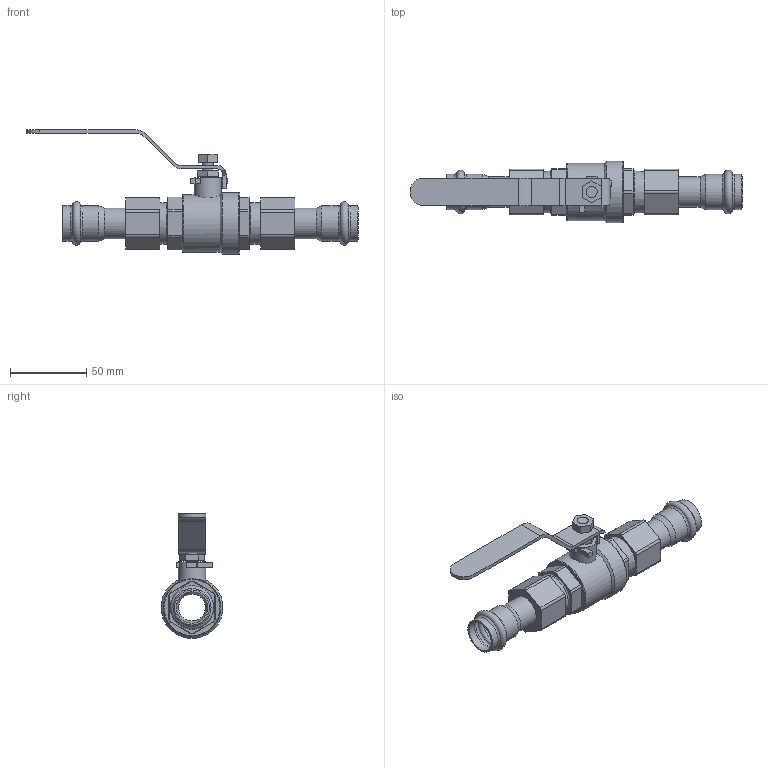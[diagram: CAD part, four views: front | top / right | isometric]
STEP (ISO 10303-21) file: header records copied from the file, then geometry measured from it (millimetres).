
FILE_DESCRIPTION(/* description */ (''),/* implementation_level */ '2;1');
FILE_NAME(/* name */ '51352010001.stp',/* time_stamp */ '2022-06-28T15:28:49+08:00',/* author */ (''),/* organization */ (''),/* preprocessor_version */ 'ST-DEVELOPER v11',/* originating_system */ 'SIEMENS PLM Software NX 7.5',/* authorisation */ '');
FILE_SCHEMA (('CONFIG_CONTROL_DESIGN'));
Length unit declared in the file: millimetre
Products named in the file (1): AdmiB4625zq7
Bounding box: 217.45 x 40.5 x 81.75 mm (x, y, z)
Volume: 86163 mm3; surface area: 49397 mm2
Topology: 5 solids, 5 shells, 197 faces, 459 edges, 294 vertices
Faces by surface type: plane 111, cylinder 51, torus 28, cone 7
Full cylindrical faces by diameter (mm): 7.2 x4, 17.6 x2, 17.8 x1, 19.45 x2, 19.8 x1, 20 x2, 20.5 x2, 20.6 x4, 20.65 x2, 23 x4, 23.6 x2, 24.117 x2, 37.7 x1, 40.5 x1
Entity records: 5298 total; most frequent: DIRECTION 914, CARTESIAN_POINT 911, ORIENTED_EDGE 766, EDGE_CURVE 383, AXIS2_PLACEMENT_3D 339, EDGE_LOOP 295, VERTEX_POINT 284, LINE 236
